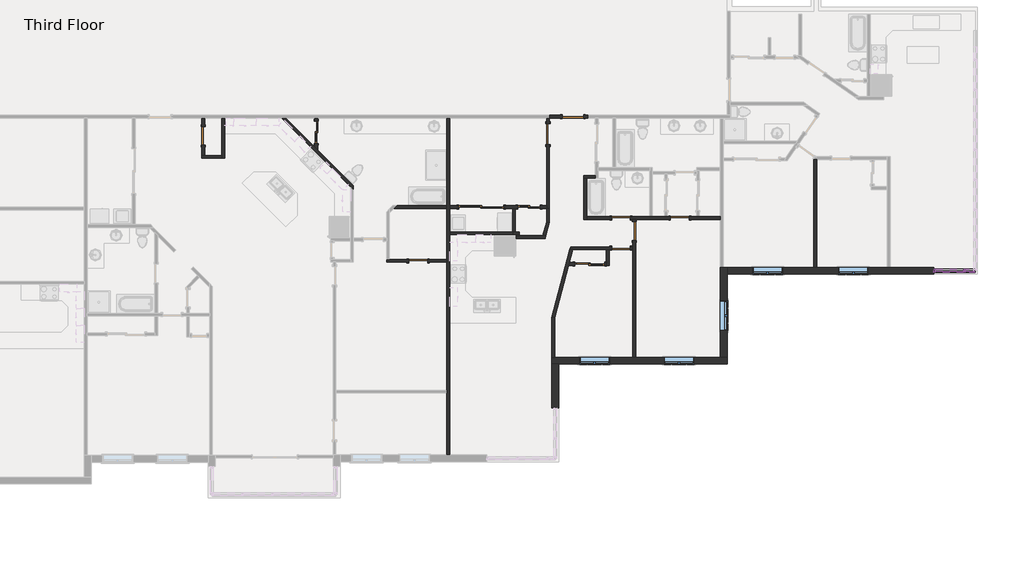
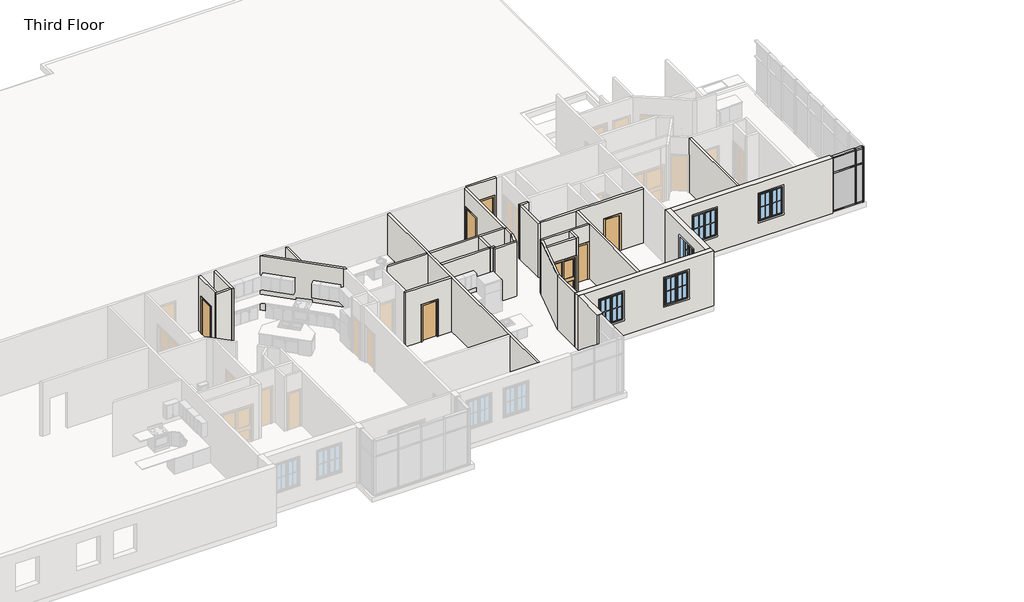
# One storey, part 5 of 17: 32 walls, 12 doors, 12 members, 5 windows, 4 plates.
"""IFC4 building model written with IfcOpenShell, lengths in millimetres."""

from ifc_helpers import new_model, si_unit, frame, origin, place, context, project, spatial, polyline, outline, extrude, faceted_brep, transform, mapped, element, save
from components import door_d8f5dbb5, door_f2b275c1, door_825b8444, door_c29894e6, door_88c23cd7, door_900f836f, door_caaf2a11, rectangular_mullion_rectangular_mullion_1_fa3625a1, rectangular_mullion_rectangular_mullion_1_7cbf0b94, rectangular_mullion_rectangular_mullion_1_6186cc23, rectangular_mullion_rectangular_mullion_1_049a2e78, rectangular_mullion_rectangular_mullion_1_a50b3cda, rectangular_mullion_rectangular_mullion_1_5cd4c5ac, rectangular_mullion_rectangular_mullion_1_64aff199, rectangular_mullion_rectangular_mullion_1_b6c962ab, system_panel_glazed_0ed27d1d, system_panel_glazed_134bacdb, system_panel_glazed_a3383988, system_panel_glazed_d9a092fd, window_33528cc2

model = new_model("IFC4")

# Units and contexts
model_context = context("Model", 3, world=origin())
ifc_project = project(units=[si_unit("LENGTHUNIT", "METRE", prefix="MILLI")], contexts=[model_context])

# Site, building, storey
site = spatial("IfcSite", under=ifc_project)
building = spatial("IfcBuilding", under=site)
storey = spatial("IfcBuildingStorey", under=building, Name="Third Floor", Elevation=6096.0)

# Doors
placement = place(None, origin())
door_shape = door_d8f5dbb5(model_context)
element("IfcDoor", 1, ObjectType="Single-Flush : 30\" x 80\"", at=placement, inside=storey, context=model_context, shape_type="MappedRepresentation", body=[
    mapped(door_shape, transform((40944.0341819, -10517.1896208, 6096.0), x_axis=(1.0, 0.0, 0.0), y_axis=(0.0, 1.0, 0.0), z_axis=(0.0, 0.0, 1.0))),
])
element("IfcDoor", 2, ObjectType="Single-Flush : 30\" x 80\"", at=placement, inside=storey, context=model_context, shape_type="MappedRepresentation", body=[
    mapped(door_shape, transform((32213.1466966, -5438.7917963, 6096.0), x_axis=(0.0, 1.0, 0.0), y_axis=(-1.0, 0.0, 0.0), z_axis=(0.0, 0.0, 1.0))),
])
door_2_shape = door_f2b275c1(model_context)
element("IfcDoor", 3, ObjectType="Single-Flush : 30\" x 80\"", at=placement, inside=storey, context=model_context, shape_type="MappedRepresentation", body=[
    mapped(door_2_shape, transform((49185.2164857, -10003.6934793, 6096.0), x_axis=(1.0, 0.0, 0.0), y_axis=(0.0, 1.0, 0.0), z_axis=(0.0, 0.0, 1.0))),
])
element("IfcDoor", 4, ObjectType="Single-Flush : 30\" x 80\"", at=placement, inside=storey, context=model_context, shape_type="MappedRepresentation", body=[
    mapped(door_2_shape, transform((49722.0869446, -9306.0763206, 6096.0), x_axis=(0.0, 1.0, 0.0), y_axis=(-1.0, 0.0, 0.0), z_axis=(0.0, 0.0, 1.0))),
])
element("IfcDoor", 5, ObjectType="Single-Flush : 30\" x 80\"", at=placement, inside=storey, context=model_context, shape_type="MappedRepresentation", body=[
    mapped(door_2_shape, transform((51578.0008306, -8772.6763206, 6096.0), x_axis=(-1.0, 0.0, 0.0), y_axis=(0.0, -1.0, 0.0), z_axis=(0.0, 0.0, 1.0))),
])
element("IfcDoor", 6, ObjectType="Single-Flush : 30\" x 80\"", at=placement, inside=storey, context=model_context, shape_type="MappedRepresentation", body=[
    mapped(door_2_shape, transform((49188.6869446, -8772.6763206, 6096.0), x_axis=(-1.0, 0.0, 0.0), y_axis=(0.0, -1.0, 0.0), z_axis=(0.0, 0.0, 1.0))),
])
door_3_shape = door_825b8444(model_context)
element("IfcDoor", 7, ObjectType="Single-Flush : 34\" x 80\"", at=placement, inside=storey, context=model_context, shape_type="MappedRepresentation", body=[
    mapped(door_3_shape, transform((47235.4550668, -4651.3917963, 6096.0), x_axis=(1.0, 0.0, 0.0), y_axis=(0.0, 1.0, 0.0), z_axis=(0.0, 0.0, 1.0))),
])
door_4_shape = door_c29894e6(model_context)
element("IfcDoor", 8, ObjectType="Single-Flush : 34\" x 80\"", at=placement, inside=storey, context=model_context, shape_type="MappedRepresentation", body=[
    mapped(door_4_shape, transform((46219.4550668, -5362.5917963, 6096.0), x_axis=(0.0, 1.0, 0.0), y_axis=(-1.0, 0.0, 0.0), z_axis=(0.0, 0.0, 1.0))),
])
door_5_shape = door_88c23cd7(model_context)
element("IfcDoor", 9, ObjectType="Sliding-Closet : 36\" x 80\"", at=placement, inside=storey, context=model_context, shape_type="MappedRepresentation", body=[
    mapped(door_5_shape, transform((45452.5275875, -8462.220689, 6096.0), x_axis=(1.0, 0.0, 0.0), y_axis=(0.0, 1.0, 0.0), z_axis=(0.0, 0.0, 1.0))),
])
element("IfcDoor", 10, ObjectType="Sliding-Closet : 36\" x 80\"", at=placement, inside=storey, context=model_context, shape_type="MappedRepresentation", body=[
    mapped(door_5_shape, transform((36679.0005062, -5286.3917963, 6096.0), x_axis=(0.0, -1.0, 0.0), y_axis=(1.0, 0.0, 0.0), z_axis=(0.0, 0.0, 1.0))),
])
door_6_shape = door_900f836f(model_context)
element("IfcDoor", 11, ObjectType="Sliding-Closet : 48\" x 80\"", at=placement, inside=storey, context=model_context, shape_type="MappedRepresentation", body=[
    mapped(door_6_shape, transform((47911.7460269, -10519.7402375, 6096.0), x_axis=(-1.0, 0.0, 0.0), y_axis=(0.0, -1.0, 0.0), z_axis=(0.0, 0.0, 1.0))),
])
door_7_shape = door_caaf2a11(model_context)
element("IfcDoor", 12, ObjectType="Sliding-Closet : 72\" x 80\"", at=placement, inside=storey, context=model_context, shape_type="MappedRepresentation", body=[
    mapped(door_7_shape, transform((43502.5485687, -8462.220689, 6096.0), x_axis=(1.0, 0.0, 0.0), y_axis=(0.0, 1.0, 0.0), z_axis=(0.0, 0.0, 1.0))),
])

# Members
rectangular_mullion_rectangular_mullion_1_shape = rectangular_mullion_rectangular_mullion_1_fa3625a1(model_context)
element("IfcMember", 13, ObjectType="Rectangular Mullion : Rectangular Mullion 1", at=placement, inside=storey, context=model_context, shape_type="MappedRepresentation", body=[
    mapped(rectangular_mullion_rectangular_mullion_1_shape, transform((63120.5712707, -10920.5254097, 9144.0), x_axis=(0.0, 0.0, 1.0), y_axis=(0.0, -1.0, 0.0), z_axis=(1.0, 0.0, 0.0))),
])
element("IfcMember", 14, ObjectType="Rectangular Mullion : Rectangular Mullion 1", at=placement, inside=storey, context=model_context, shape_type="MappedRepresentation", body=[
    mapped(rectangular_mullion_rectangular_mullion_1_shape, transform((61964.8712704, -10920.5254097, 6096.0), x_axis=(0.0, 0.0, -1.0), y_axis=(0.0, -1.0, 0.0), z_axis=(-1.0, 0.0, 0.0))),
])
rectangular_mullion_rectangular_mullion_1_2_shape = rectangular_mullion_rectangular_mullion_1_7cbf0b94(model_context)
element("IfcMember", 15, ObjectType="Rectangular Mullion : Rectangular Mullion 1", at=placement, inside=storey, context=model_context, shape_type="MappedRepresentation", body=[
    mapped(rectangular_mullion_rectangular_mullion_1_2_shape, transform((63120.5712707, -10920.5254097, 8261.35), x_axis=(0.0, 0.0, 1.0), y_axis=(0.0, -1.0, 0.0), z_axis=(1.0, 0.0, 0.0))),
])
rectangular_mullion_rectangular_mullion_1_3_shape = rectangular_mullion_rectangular_mullion_1_6186cc23(model_context)
element("IfcMember", 16, ObjectType="Rectangular Mullion : Rectangular Mullion 1", at=placement, inside=storey, context=model_context, shape_type="MappedRepresentation", body=[
    mapped(rectangular_mullion_rectangular_mullion_1_3_shape, transform((63152.3212707, -10920.5254097, 6096.0), x_axis=(1.0, 0.0, 0.0), y_axis=(0.0, -1.0, 0.0), z_axis=(0.0, 0.0, -1.0))),
])
rectangular_mullion_rectangular_mullion_1_4_shape = rectangular_mullion_rectangular_mullion_1_049a2e78(model_context)
element("IfcMember", 17, ObjectType="Rectangular Mullion : Rectangular Mullion 1", at=placement, inside=storey, context=model_context, shape_type="MappedRepresentation", body=[
    mapped(rectangular_mullion_rectangular_mullion_1_4_shape, transform((63152.3212707, -10920.5254097, 8261.35), x_axis=(1.0, 0.0, 0.0), y_axis=(0.0, -1.0, 0.0), z_axis=(0.0, 0.0, -1.0))),
])
rectangular_mullion_rectangular_mullion_1_5_shape = rectangular_mullion_rectangular_mullion_1_a50b3cda(model_context)
element("IfcMember", 18, ObjectType="Rectangular Mullion : Rectangular Mullion 1", at=placement, inside=storey, context=model_context, shape_type="MappedRepresentation", body=[
    mapped(rectangular_mullion_rectangular_mullion_1_5_shape, transform((63577.7712704, -10920.5254097, 6096.0), x_axis=(1.0, 0.0, 0.0), y_axis=(0.0, -1.0, 0.0), z_axis=(0.0, 0.0, -1.0))),
])
rectangular_mullion_rectangular_mullion_1_6_shape = rectangular_mullion_rectangular_mullion_1_5cd4c5ac(model_context)
element("IfcMember", 19, ObjectType="Rectangular Mullion : Rectangular Mullion 1", at=placement, inside=storey, context=model_context, shape_type="MappedRepresentation", body=[
    mapped(rectangular_mullion_rectangular_mullion_1_6_shape, transform((63577.7712704, -10920.5254097, 8261.35), x_axis=(1.0, 0.0, 0.0), y_axis=(0.0, -1.0, 0.0), z_axis=(0.0, 0.0, -1.0))),
])
element("IfcMember", 20, ObjectType="Rectangular Mullion : Rectangular Mullion 1", at=placement, inside=storey, context=model_context, shape_type="MappedRepresentation", body=[
    mapped(rectangular_mullion_rectangular_mullion_1_6_shape, transform((61901.3712704, -10920.5254097, 9144.0), x_axis=(-1.0, 0.0, 0.0), y_axis=(0.0, -1.0, 0.0), z_axis=(0.0, 0.0, 1.0))),
])
element("IfcMember", 21, ObjectType="Rectangular Mullion : Rectangular Mullion 1", at=placement, inside=storey, context=model_context, shape_type="MappedRepresentation", body=[
    mapped(rectangular_mullion_rectangular_mullion_1_5_shape, transform((61901.3712704, -10920.5254097, 8261.35), x_axis=(-1.0, 0.0, 0.0), y_axis=(0.0, -1.0, 0.0), z_axis=(0.0, 0.0, 1.0))),
])
rectangular_mullion_rectangular_mullion_1_7_shape = rectangular_mullion_rectangular_mullion_1_64aff199(model_context)
element("IfcMember", 22, ObjectType="Rectangular Mullion : Rectangular Mullion 1", at=placement, inside=storey, context=model_context, shape_type="MappedRepresentation", body=[
    mapped(rectangular_mullion_rectangular_mullion_1_7_shape, transform((63514.2712704, -10920.5254097, 9144.0), x_axis=(0.0, 0.0, 1.0), y_axis=(0.0, -1.0, 0.0), z_axis=(1.0, 0.0, 0.0))),
])
element("IfcMember", 23, ObjectType="Rectangular Mullion : Rectangular Mullion 1", at=placement, inside=storey, context=model_context, shape_type="MappedRepresentation", body=[
    mapped(rectangular_mullion_rectangular_mullion_1_7_shape, transform((63184.0712707, -10920.5254097, 6096.0), x_axis=(0.0, 0.0, -1.0), y_axis=(0.0, -1.0, 0.0), z_axis=(-1.0, 0.0, 0.0))),
])
rectangular_mullion_rectangular_mullion_1_8_shape = rectangular_mullion_rectangular_mullion_1_b6c962ab(model_context)
element("IfcMember", 24, ObjectType="Rectangular Mullion : Rectangular Mullion 1", at=placement, inside=storey, context=model_context, shape_type="MappedRepresentation", body=[
    mapped(rectangular_mullion_rectangular_mullion_1_8_shape, transform((63514.2712704, -10920.5254097, 8261.35), x_axis=(0.0, 0.0, 1.0), y_axis=(0.0, -1.0, 0.0), z_axis=(1.0, 0.0, 0.0))),
])

# Plates
system_panel_glazed_shape = system_panel_glazed_0ed27d1d(model_context)
element("IfcPlate", 25, ObjectType="System Panel : Glazed", at=placement, inside=storey, context=model_context, shape_type="MappedRepresentation", body=[
    mapped(system_panel_glazed_shape, transform((62542.7212705, -10920.5254097, 6159.5), x_axis=(1.0, 0.0, 0.0), y_axis=(0.0, 1.0, 0.0), z_axis=(0.0, 0.0, 1.0))),
])
system_panel_glazed_2_shape = system_panel_glazed_134bacdb(model_context)
element("IfcPlate", 26, ObjectType="System Panel : Glazed", at=placement, inside=storey, context=model_context, shape_type="MappedRepresentation", body=[
    mapped(system_panel_glazed_2_shape, transform((62542.7212705, -10920.5254097, 8293.1), x_axis=(1.0, 0.0, 0.0), y_axis=(0.0, 1.0, 0.0), z_axis=(0.0, 0.0, 1.0))),
])
system_panel_glazed_3_shape = system_panel_glazed_a3383988(model_context)
element("IfcPlate", 27, ObjectType="System Panel : Glazed", at=placement, inside=storey, context=model_context, shape_type="MappedRepresentation", body=[
    mapped(system_panel_glazed_3_shape, transform((63349.1712705, -10920.5254097, 6159.5), x_axis=(1.0, 0.0, 0.0), y_axis=(0.0, 1.0, 0.0), z_axis=(0.0, 0.0, 1.0))),
])
system_panel_glazed_4_shape = system_panel_glazed_d9a092fd(model_context)
element("IfcPlate", 28, ObjectType="System Panel : Glazed", at=placement, inside=storey, context=model_context, shape_type="MappedRepresentation", body=[
    mapped(system_panel_glazed_4_shape, transform((63349.1712705, -10920.5254097, 8293.1), x_axis=(1.0, 0.0, 0.0), y_axis=(0.0, 1.0, 0.0), z_axis=(0.0, 0.0, 1.0))),
])

# Walls
element("IfcWall", 29, ObjectType="Exterior - Brick on Wood Stud", at=placement, inside=storey, context=model_context, shape_type="Brep", body=[
    faceted_brep([(46370.0422255, -14719.4129097, 6096.0), (46652.6172255, -14719.4129097, 6096.0), (53508.2587704, -14719.4129097, 6096.0), (53508.2587704, -14719.4129097, 9144.0), (46652.6172255, -14719.4129097, 9144.0), (46370.0422255, -14719.4129097, 9144.0), (50934.9291075, -14719.4129097, 8534.4), (52154.1291075, -14719.4129097, 8534.4), (52154.1291075, -14719.4129097, 7010.4), (50934.9291075, -14719.4129097, 7010.4), (47507.1083351, -14719.4129097, 8534.4), (48726.3083351, -14719.4129097, 8534.4), (48726.3083351, -14719.4129097, 7010.4), (47507.1083351, -14719.4129097, 7010.4), (46370.0422255, -14436.8379097, 6096.0), (46370.0422255, -14436.8379097, 9144.0), (46484.3422255, -14436.8379097, 9144.0), (49664.9369446, -14436.8379097, 9144.0), (49779.2369446, -14436.8379097, 9144.0), (53225.6837704, -14436.8379097, 9144.0), (53508.2587704, -14436.8379097, 9144.0), (53508.2587704, -14436.8379097, 6096.0), (53225.6837704, -14436.8379097, 6096.0), (49779.2369446, -14436.8379097, 6096.0), (49664.9369446, -14436.8379097, 6096.0), (46484.3422255, -14436.8379097, 6096.0), (50934.9291075, -14436.8379097, 8534.4), (50934.9291075, -14436.8379097, 7010.4), (52154.1291075, -14436.8379097, 7010.4), (52154.1291075, -14436.8379097, 8534.4), (47507.1083351, -14436.8379097, 8534.4), (47507.1083351, -14436.8379097, 7010.4), (48726.3083351, -14436.8379097, 7010.4), (48726.3083351, -14436.8379097, 8534.4)], [[[0, 1, 2, 3, 4, 5], [6, 7, 8, 9], [10, 11, 12, 13]], [[14, 15, 16, 17, 18, 19, 20, 21, 22, 23, 24, 25], [26, 27, 28, 29], [30, 31, 32, 33]], [[2, 1, 0, 14, 25, 24, 23, 22, 21]], [[5, 4, 3, 20, 19, 18, 17, 16, 15]], [[27, 26, 6, 9]], [[28, 27, 9, 8]], [[29, 28, 8, 7]], [[26, 29, 7, 6]], [[31, 30, 10, 13]], [[32, 31, 13, 12]], [[33, 32, 12, 11]], [[30, 33, 11, 10]], [[0, 5, 15, 14]], [[3, 2, 21, 20]]]),
])
element("IfcWall", 30, ObjectType="Exterior - Brick on Wood Stud", at=placement, inside=storey, context=model_context, shape_type="Brep", body=[
    faceted_brep([(53508.2587704, -14436.8379097, 6096.0), (53508.2587704, -11061.8129097, 6096.0), (53508.2587704, -10779.2379097, 6096.0), (53508.2587704, -10779.2379097, 9144.0), (53508.2587704, -11061.8129097, 9144.0), (53508.2587704, -14436.8379097, 9144.0), (53508.2587704, -13358.9254097, 8534.4), (53508.2587704, -12139.7254097, 8534.4), (53508.2587704, -12139.7254097, 7010.4), (53508.2587704, -13358.9254097, 7010.4), (53225.6837704, -14436.8379097, 6096.0), (53225.6837704, -14436.8379097, 9144.0), (53225.6837704, -10779.2379097, 9144.0), (53225.6837704, -10779.2379097, 6096.0), (53225.6837704, -13358.9254097, 8534.4), (53225.6837704, -13358.9254097, 7010.4), (53225.6837704, -12139.7254097, 7010.4), (53225.6837704, -12139.7254097, 8534.4), (53339.9837704, -10779.2379097, 6096.0), (53339.9837704, -10779.2379097, 9144.0)], [[[0, 1, 2, 3, 4, 5], [6, 7, 8, 9]], [[10, 11, 12, 13], [14, 15, 16, 17]], [[2, 1, 0, 10, 13, 18]], [[5, 4, 3, 19, 12, 11]], [[15, 14, 6, 9]], [[16, 15, 9, 8]], [[17, 16, 8, 7]], [[14, 17, 7, 6]], [[3, 2, 18, 13, 12, 19]], [[0, 5, 11, 10]]]),
])
element("IfcWall", 31, ObjectType="Exterior - Brick on Wood Stud", at=placement, inside=storey, context=model_context, shape_type="Brep", body=[
    faceted_brep([(53508.2587704, -11061.8129097, 6096.0), (61901.3712704, -11061.8129097, 6096.0), (61901.3712704, -11061.8129097, 9144.0), (53508.2587704, -11061.8129097, 9144.0), (58021.3646499, -11061.8129097, 8534.4), (59240.5646499, -11061.8129097, 8534.4), (59240.5646499, -11061.8129097, 7010.4), (58021.3646499, -11061.8129097, 7010.4), (54535.3712704, -11061.8129097, 8534.4), (55754.5712704, -11061.8129097, 8534.4), (55754.5712704, -11061.8129097, 7010.4), (54535.3712704, -11061.8129097, 7010.4), (53508.2587704, -10779.2379097, 6096.0), (53508.2587704, -10779.2379097, 9144.0), (57029.5575892, -10779.2379097, 9144.0), (57143.8575892, -10779.2379097, 9144.0), (60016.4717107, -10779.2379097, 9144.0), (60130.7717107, -10779.2379097, 9144.0), (61901.3712704, -10779.2379097, 9144.0), (61901.3712704, -10779.2379097, 6096.0), (60130.7717107, -10779.2379097, 6096.0), (60016.4717107, -10779.2379097, 6096.0), (57143.8575892, -10779.2379097, 6096.0), (57029.5575892, -10779.2379097, 6096.0), (58021.3646499, -10779.2379097, 8534.4), (58021.3646499, -10779.2379097, 7010.4), (59240.5646499, -10779.2379097, 7010.4), (59240.5646499, -10779.2379097, 8534.4), (54535.3712704, -10779.2379097, 8534.4), (54535.3712704, -10779.2379097, 7010.4), (55754.5712704, -10779.2379097, 7010.4), (55754.5712704, -10779.2379097, 8534.4)], [[[0, 1, 2, 3], [4, 5, 6, 7], [8, 9, 10, 11]], [[12, 13, 14, 15, 16, 17, 18, 19, 20, 21, 22, 23], [24, 25, 26, 27], [28, 29, 30, 31]], [[1, 0, 12, 23, 22, 21, 20, 19]], [[2, 1, 19, 18]], [[3, 2, 18, 17, 16, 15, 14, 13]], [[25, 24, 4, 7]], [[26, 25, 7, 6]], [[27, 26, 6, 5]], [[24, 27, 5, 4]], [[29, 28, 8, 11]], [[30, 29, 11, 10]], [[31, 30, 10, 9]], [[28, 31, 9, 8]], [[0, 3, 13, 12]]]),
])
element("IfcWall", 32, ObjectType="Exterior - Brick on Wood Stud", at=placement, inside=storey, context=model_context, shape_type="SweptSolid", body=[
    extrude(outline(polyline([(46652.6172255, -14719.4129097), (46652.6172255, -16495.3488497), (46370.0422255, -16495.3488497), (46370.0422255, -14719.4129097), (46652.6172255, -14719.4129097)])), frame((0.0, 0.0, 6096.0), z_axis=(0.0, 0.0, 1.0), x_axis=(1.0, 0.0, 0.0)), (0.0, 0.0, 1.0), 3048.0),
])
element("IfcWall", 33, ObjectType="Interior - 4 1/2\" Partition", at=placement, inside=storey, context=model_context, shape_type="Brep", body=[
    faceted_brep([(42109.9470292, -4708.5417963, 6096.0), (42109.9470292, -8278.070689, 6096.0), (42109.9470292, -8392.370689, 6096.0), (42109.9470292, -10460.0396208, 6096.0), (42109.9470292, -10574.3396208, 6096.0), (42109.9470292, -15784.9064679, 6096.0), (42109.9470292, -15899.2064679, 6096.0), (42109.9470292, -18414.3743072, 6096.0), (42109.9470292, -18414.3743072, 9144.0), (42109.9470292, -15899.2064679, 9144.0), (42109.9470292, -15784.9064679, 9144.0), (42109.9470292, -10574.3396208, 9144.0), (42109.9470292, -10460.0396208, 9144.0), (42109.9470292, -8392.370689, 9144.0), (42109.9470292, -8278.070689, 9144.0), (42109.9470292, -4708.5417963, 9144.0), (42224.2470292, -4708.5417963, 6096.0), (42224.2470292, -4708.5417963, 9144.0), (42224.2470292, -8278.070689, 9144.0), (42224.2470292, -8392.370689, 9144.0), (42224.2470292, -9338.0876998, 9144.0), (42224.2470292, -9452.3876998, 9144.0), (42224.2470292, -18414.3743072, 9144.0), (42224.2470292, -18414.3743072, 6096.0), (42224.2470292, -9452.3876998, 6096.0), (42224.2470292, -9338.0876998, 6096.0), (42224.2470292, -8392.370689, 6096.0), (42224.2470292, -8278.070689, 6096.0)], [[[0, 1, 2, 3, 4, 5, 6, 7, 8, 9, 10, 11, 12, 13, 14, 15]], [[16, 17, 18, 19, 20, 21, 22, 23, 24, 25, 26, 27]], [[7, 6, 5, 4, 3, 2, 1, 0, 16, 27, 26, 25, 24, 23]], [[15, 14, 13, 12, 11, 10, 9, 8, 22, 21, 20, 19, 18, 17]], [[0, 15, 17, 16]], [[8, 7, 23, 22]]]),
])
element("IfcWall", 34, ObjectType="Interior - 4 1/2\" Partition", at=placement, inside=storey, context=model_context, shape_type="Brep", body=[
    faceted_brep([(38310.9505062, -7451.1325257, 6096.0), (36863.1505062, -6003.3325257, 6096.0), (36748.8505062, -5889.0325257, 6096.0), (35568.3597768, -4708.5417963, 6096.0), (35568.3597768, -4708.5417963, 9144.0), (36748.8505062, -5889.0325257, 9144.0), (36863.1505062, -6003.3325257, 9144.0), (38310.9505062, -7451.1325257, 9144.0), (38310.9505062, -7612.7771359, 6096.0), (38310.9505062, -7612.7771359, 9144.0), (38196.6505062, -7498.4771359, 9144.0), (35406.7151666, -4708.5417963, 9144.0), (35406.7151666, -4708.5417963, 6096.0), (38196.6505062, -7498.4771359, 6096.0)], [[[0, 1, 2, 3, 4, 5, 6, 7]], [[8, 9, 10, 11, 12, 13]], [[3, 2, 1, 0, 8, 13, 12]], [[7, 6, 5, 4, 11, 10, 9]], [[0, 7, 9, 8]], [[4, 3, 12, 11]]]),
])
element("IfcWall", 35, ObjectType="Interior - 4 1/2\" Partition", at=placement, inside=storey, context=model_context, shape_type="Brep", body=[
    faceted_brep([(42109.9470292, -10460.0396208, 6096.0), (41325.0341819, -10460.0396208, 6096.0), (41325.0341819, -10460.0396208, 8128.0), (40563.0341819, -10460.0396208, 8128.0), (40563.0341819, -10460.0396208, 6096.0), (39778.1213345, -10460.0396208, 6096.0), (39663.8213345, -10460.0396208, 6096.0), (39663.8213345, -10460.0396208, 9144.0), (39778.1213345, -10460.0396208, 9144.0), (42109.9470292, -10460.0396208, 9144.0), (41325.0341819, -10574.3396208, 8128.0), (41325.0341819, -10574.3396208, 6096.0), (42109.9470292, -10574.3396208, 6096.0), (42109.9470292, -10574.3396208, 9144.0), (39663.8213345, -10574.3396208, 9144.0), (39663.8213345, -10574.3396208, 6096.0), (40563.0341819, -10574.3396208, 6096.0), (40563.0341819, -10574.3396208, 8128.0)], [[[0, 1, 2, 3, 4, 5, 6, 7, 8, 9]], [[10, 11, 12, 13, 14, 15, 16, 17]], [[16, 15, 6, 5, 4]], [[12, 11, 1, 0]], [[9, 8, 7, 14, 13]], [[2, 1, 11, 10]], [[3, 2, 10, 17]], [[4, 3, 17, 16]], [[7, 6, 15, 14]], [[0, 9, 13, 12]]]),
])
element("IfcWall", 36, ObjectType="Interior - 4 1/2\" Partition", at=placement, inside=storey, context=model_context, shape_type="SweptSolid", body=[
    extrude(outline(polyline([(42109.9470292, -8392.370689), (39960.1697865, -8392.370689), (40074.4697865, -8278.070689), (42109.9470292, -8278.070689), (42109.9470292, -8392.370689)])), frame((0.0, 0.0, 6096.0), z_axis=(0.0, 0.0, 1.0), x_axis=(1.0, 0.0, 0.0)), (0.0, 0.0, 1.0), 3048.0),
])
element("IfcWall", 37, ObjectType="Interior - 4 1/2\" Partition", at=placement, inside=storey, context=model_context, shape_type="Brep", body=[
    faceted_brep([(32968.7966966, -4708.5417963, 6096.0), (32968.7966966, -6227.7127707, 6096.0), (32968.7966966, -6342.0127707, 6096.0), (32968.7966966, -6342.0127707, 9144.0), (32968.7966966, -6227.7127707, 9144.0), (32968.7966966, -4708.5417963, 9144.0), (33083.0966966, -4708.5417963, 6096.0), (33083.0966966, -4708.5417963, 9144.0), (33083.0966966, -6342.0127707, 9144.0), (33083.0966966, -6342.0127707, 6096.0)], [[[0, 1, 2, 3, 4, 5]], [[6, 7, 8, 9]], [[2, 1, 0, 6, 9]], [[5, 4, 3, 8, 7]], [[3, 2, 9, 8]], [[0, 5, 7, 6]]]),
])
element("IfcWall", 38, ObjectType="Interior - 4 1/2\" Partition", at=placement, inside=storey, context=model_context, shape_type="Brep", body=[
    faceted_brep([(32968.7966966, -6227.7127707, 6096.0), (32270.2966966, -6227.7127707, 6096.0), (32155.9966966, -6227.7127707, 6096.0), (32155.9966966, -6227.7127707, 9144.0), (32270.2966966, -6227.7127707, 9144.0), (32968.7966966, -6227.7127707, 9144.0), (32968.7966966, -6342.0127707, 6096.0), (32968.7966966, -6342.0127707, 9144.0), (32155.9966966, -6342.0127707, 9144.0), (32155.9966966, -6342.0127707, 6096.0)], [[[0, 1, 2, 3, 4, 5]], [[6, 7, 8, 9]], [[2, 1, 0, 6, 9]], [[5, 4, 3, 8, 7]], [[3, 2, 9, 8]], [[0, 5, 7, 6]]]),
])
element("IfcWall", 39, ObjectType="Interior - 4 1/2\" Partition", at=placement, inside=storey, context=model_context, shape_type="SweptSolid", body=[
    extrude(outline(polyline([(-4708.5417963, 6096.0), (-5057.7917963, 6096.0), (-5057.7917963, 8128.0), (-5819.7917963, 8128.0), (-5819.7917963, 6096.0), (-6227.7127707, 6096.0), (-6227.7127707, 9144.0), (-4708.5417963, 9144.0), (-4708.5417963, 6096.0)])), frame((32155.9966966, 0.0, 0.0), z_axis=(1.0, 0.0, 0.0), x_axis=(0.0, 1.0, 0.0)), (0.0, 0.0, 1.0), 114.3),
])
element("IfcWall", 40, ObjectType="Interior - 4 1/2\" Partition", at=placement, inside=storey, context=model_context, shape_type="Brep", body=[
    faceted_brep([(46162.3050668, -4708.5417963, 6096.0), (46162.3050668, -4930.7917963, 6096.0), (46162.3050668, -4930.7917963, 8128.0), (46162.3050668, -5794.3917963, 8128.0), (46162.3050668, -5794.3917963, 6096.0), (46162.3050668, -8278.070689, 6096.0), (46162.3050668, -8392.370689, 6096.0), (46162.3050668, -8392.370689, 9144.0), (46162.3050668, -8278.070689, 9144.0), (46162.3050668, -4708.5417963, 9144.0), (46276.6050668, -4930.7917963, 8128.0), (46276.6050668, -4930.7917963, 6096.0), (46276.6050668, -4708.5417963, 6096.0), (46276.6050668, -4708.5417963, 9144.0), (46276.6050668, -8392.370689, 9144.0), (46276.6050668, -8392.370689, 6096.0), (46276.6050668, -5794.3917963, 6096.0), (46276.6050668, -5794.3917963, 8128.0)], [[[0, 1, 2, 3, 4, 5, 6, 7, 8, 9]], [[10, 11, 12, 13, 14, 15, 16, 17]], [[16, 15, 6, 5, 4]], [[12, 11, 1, 0]], [[9, 8, 7, 14, 13]], [[2, 1, 11, 10]], [[3, 2, 10, 17]], [[4, 3, 17, 16]], [[7, 6, 15, 14]], [[0, 9, 13, 12]]]),
])
element("IfcWall", 41, ObjectType="Interior - 4 1/2\" Partition", at=placement, inside=storey, context=model_context, shape_type="SweptSolid", body=[
    extrude(outline(polyline([(8128.0, 47667.2550668), (6096.0, 47667.2550668), (6096.0, 47845.0550668), (9144.0, 47845.0550668), (9144.0, 46276.6050668), (6096.0, 46276.6050668), (6096.0, 46803.6550668), (8128.0, 46803.6550668), (8128.0, 47667.2550668)])), frame((0.0, -4708.5417963, 0.0), z_axis=(0.0, 1.0, 0.0), x_axis=(0.0, 0.0, 1.0)), (0.0, 0.0, 1.0), 114.3),
])
element("IfcWall", 42, ObjectType="Interior - 4 1/2\" Partition", at=placement, inside=storey, context=model_context, shape_type="Brep", body=[
    faceted_brep([(46162.3050668, -8278.070689, 6096.0), (45909.7275875, -8278.070689, 6096.0), (45909.7275875, -8278.070689, 8128.0), (44995.3275875, -8278.070689, 8128.0), (44995.3275875, -8278.070689, 6096.0), (44416.9485687, -8278.070689, 6096.0), (44416.9485687, -8278.070689, 8128.0), (42588.1485687, -8278.070689, 8128.0), (42588.1485687, -8278.070689, 6096.0), (42224.2470292, -8278.070689, 6096.0), (42224.2470292, -8278.070689, 9144.0), (46162.3050668, -8278.070689, 9144.0), (45909.7275875, -8392.370689, 8128.0), (45909.7275875, -8392.370689, 6096.0), (46162.3050668, -8392.370689, 6096.0), (46162.3050668, -8392.370689, 9144.0), (44895.1501082, -8392.370689, 9144.0), (44780.8501082, -8392.370689, 9144.0), (42224.2470292, -8392.370689, 9144.0), (42224.2470292, -8392.370689, 6096.0), (42588.1485687, -8392.370689, 6096.0), (42588.1485687, -8392.370689, 8128.0), (44416.9485687, -8392.370689, 8128.0), (44416.9485687, -8392.370689, 6096.0), (44780.8501082, -8392.370689, 6096.0), (44895.1501082, -8392.370689, 6096.0), (44995.3275875, -8392.370689, 6096.0), (44995.3275875, -8392.370689, 8128.0)], [[[0, 1, 2, 3, 4, 5, 6, 7, 8, 9, 10, 11]], [[12, 13, 14, 15, 16, 17, 18, 19, 20, 21, 22, 23, 24, 25, 26, 27]], [[20, 19, 9, 8]], [[14, 13, 1, 0]], [[26, 25, 24, 23, 5, 4]], [[11, 10, 18, 17, 16, 15]], [[8, 7, 21, 20]], [[6, 5, 23, 22]], [[7, 6, 22, 21]], [[4, 3, 27, 26]], [[2, 1, 13, 12]], [[3, 2, 12, 27]], [[0, 11, 15, 14]], [[10, 9, 19, 18]]]),
])
element("IfcWall", 43, ObjectType="Interior - 4 1/2\" Partition", at=placement, inside=storey, context=model_context, shape_type="SweptSolid", body=[
    extrude(outline(polyline([(46162.3050668, -8935.5417122), (46162.3050668, -8392.370689), (46276.6050668, -8392.370689), (46276.6050668, -8950.5895927), (46162.3050668, -8935.5417122)])), frame((0.0, 0.0, 6096.0), z_axis=(0.0, 0.0, 1.0), x_axis=(1.0, 0.0, 0.0)), (0.0, 0.0, 1.0), 3048.0),
])
element("IfcWall", 44, ObjectType="Interior - 4 1/2\" Partition", at=placement, inside=storey, context=model_context, shape_type="Brep", body=[
    faceted_brep([(46131.0628298, -9493.760616, 6096.0), (46012.7307624, -9493.760616, 6096.0), (45047.5501082, -9493.760616, 6096.0), (44933.2501082, -9493.760616, 6096.0), (44933.2501082, -9493.760616, 9144.0), (45047.5501082, -9493.760616, 9144.0), (46012.7307624, -9493.760616, 9144.0), (46131.0628298, -9493.760616, 9144.0), (46100.4362371, -9608.060616, 6096.0), (46100.4362371, -9608.060616, 9144.0), (44933.2501082, -9608.060616, 9144.0), (44933.2501082, -9608.060616, 6096.0)], [[[0, 1, 2, 3, 4, 5, 6, 7]], [[8, 9, 10, 11]], [[3, 2, 1, 0, 8, 11]], [[7, 6, 5, 4, 10, 9]], [[0, 7, 9, 8]], [[4, 3, 11, 10]]]),
])
element("IfcWall", 45, ObjectType="Interior - 4 1/2\" Partition", at=placement, inside=storey, context=model_context, shape_type="SweptSolid", body=[
    extrude(outline(polyline([(45047.5501082, -9452.3876998), (45047.5501082, -9493.760616), (44933.2501082, -9493.760616), (44933.2501082, -9452.3876998), (45047.5501082, -9452.3876998)])), frame((0.0, 0.0, 6096.0), z_axis=(0.0, 0.0, 1.0), x_axis=(1.0, 0.0, 0.0)), (0.0, 0.0, 1.0), 3048.0),
])
element("IfcWall", 46, ObjectType="Interior - 4 1/2\" Partition", at=placement, inside=storey, context=model_context, shape_type="Brep", body=[
    faceted_brep([(45047.5501082, -9338.0876998, 6096.0), (44895.1501082, -9338.0876998, 6096.0), (44780.8501082, -9338.0876998, 6096.0), (44780.8501082, -9338.0876998, 9144.0), (44895.1501082, -9338.0876998, 9144.0), (45047.5501082, -9338.0876998, 9144.0), (45047.5501082, -9452.3876998, 6096.0), (45047.5501082, -9452.3876998, 9144.0), (44933.2501082, -9452.3876998, 9144.0), (44780.8501082, -9452.3876998, 9144.0), (44780.8501082, -9452.3876998, 6096.0), (44933.2501082, -9452.3876998, 6096.0)], [[[0, 1, 2, 3, 4, 5]], [[6, 7, 8, 9, 10, 11]], [[2, 1, 0, 6, 11, 10]], [[5, 4, 3, 9, 8, 7]], [[3, 2, 10, 9]], [[0, 5, 7, 6]]]),
])
element("IfcWall", 47, ObjectType="Interior - 4 1/2\" Partition", at=placement, inside=storey, context=model_context, shape_type="SweptSolid", body=[
    extrude(outline(polyline([(44895.1501082, -8392.370689), (44895.1501082, -9338.0876998), (44780.8501082, -9338.0876998), (44780.8501082, -8392.370689), (44895.1501082, -8392.370689)])), frame((0.0, 0.0, 6096.0), z_axis=(0.0, 0.0, 1.0), x_axis=(1.0, 0.0, 0.0)), (0.0, 0.0, 1.0), 3048.0),
])
element("IfcWall", 48, ObjectType="Interior - 4 1/2\" Partition", at=placement, inside=storey, context=model_context, shape_type="Brep", body=[
    faceted_brep([(48143.5050668, -7042.3192831, 6096.0), (47676.7960269, -7042.3192831, 6096.0), (47676.7960269, -7042.3192831, 9144.0), (48143.5050668, -7042.3192831, 9144.0), (48143.5050668, -7156.6192831, 6096.0), (48143.5050668, -7156.6192831, 9144.0), (47791.0960269, -7156.6192831, 9144.0), (47676.7960269, -7156.6192831, 9144.0), (47676.7960269, -7156.6192831, 6096.0), (47791.0960269, -7156.6192831, 6096.0)], [[[0, 1, 2, 3]], [[4, 5, 6, 7, 8, 9]], [[1, 0, 4, 9, 8]], [[3, 2, 7, 6, 5]], [[2, 1, 8, 7]], [[0, 3, 5, 4]]]),
])
element("IfcWall", 49, ObjectType="Interior - 4 1/2\" Partition", at=placement, inside=storey, context=model_context, shape_type="Brep", body=[
    faceted_brep([(47676.7960269, -7156.6192831, 6096.0), (47676.7960269, -8829.8263206, 6096.0), (47676.7960269, -8829.8263206, 9144.0), (47676.7960269, -7156.6192831, 9144.0), (47791.0960269, -7156.6192831, 6096.0), (47791.0960269, -7156.6192831, 9144.0), (47791.0960269, -8715.5263206, 9144.0), (47791.0960269, -8829.8263206, 9144.0), (47791.0960269, -8829.8263206, 6096.0), (47791.0960269, -8715.5263206, 6096.0)], [[[0, 1, 2, 3]], [[4, 5, 6, 7, 8, 9]], [[1, 0, 4, 9, 8]], [[3, 2, 7, 6, 5]], [[2, 1, 8, 7]], [[0, 3, 5, 4]]]),
])
element("IfcWall", 50, ObjectType="Interior - 4 1/2\" Partition", at=placement, inside=storey, context=model_context, shape_type="Brep", body=[
    faceted_brep([(47791.0960269, -8829.8263206, 6096.0), (48807.6869446, -8829.8263206, 6096.0), (48807.6869446, -8829.8263206, 8128.0), (49569.6869446, -8829.8263206, 8128.0), (49569.6869446, -8829.8263206, 6096.0), (49664.9369446, -8829.8263206, 6096.0), (49779.2369446, -8829.8263206, 6096.0), (51197.0008306, -8829.8263206, 6096.0), (51197.0008306, -8829.8263206, 8128.0), (51959.0008306, -8829.8263206, 8128.0), (51959.0008306, -8829.8263206, 6096.0), (53225.6837704, -8829.8263206, 6096.0), (53225.6837704, -8829.8263206, 9144.0), (49779.2369446, -8829.8263206, 9144.0), (49664.9369446, -8829.8263206, 9144.0), (47791.0960269, -8829.8263206, 9144.0), (48807.6869446, -8715.5263206, 8128.0), (48807.6869446, -8715.5263206, 6096.0), (47791.0960269, -8715.5263206, 6096.0), (47791.0960269, -8715.5263206, 9144.0), (50352.4508306, -8715.5263206, 9144.0), (50466.7508306, -8715.5263206, 9144.0), (50962.0508306, -8715.5263206, 9144.0), (51076.3508306, -8715.5263206, 9144.0), (52256.4979881, -8715.5263206, 9144.0), (52370.7979881, -8715.5263206, 9144.0), (53225.6837704, -8715.5263206, 9144.0), (53225.6837704, -8715.5263206, 6096.0), (52370.7979881, -8715.5263206, 6096.0), (52256.4979881, -8715.5263206, 6096.0), (51959.0008306, -8715.5263206, 6096.0), (51959.0008306, -8715.5263206, 8128.0), (51197.0008306, -8715.5263206, 8128.0), (51197.0008306, -8715.5263206, 6096.0), (51076.3508306, -8715.5263206, 6096.0), (50962.0508306, -8715.5263206, 6096.0), (50466.7508306, -8715.5263206, 6096.0), (50352.4508306, -8715.5263206, 6096.0), (49569.6869446, -8715.5263206, 6096.0), (49569.6869446, -8715.5263206, 8128.0)], [[[0, 1, 2, 3, 4, 5, 6, 7, 8, 9, 10, 11, 12, 13, 14, 15]], [[16, 17, 18, 19, 20, 21, 22, 23, 24, 25, 26, 27, 28, 29, 30, 31, 32, 33, 34, 35, 36, 37, 38, 39]], [[30, 29, 28, 27, 11, 10]], [[18, 17, 1, 0]], [[38, 37, 36, 35, 34, 33, 7, 6, 5, 4]], [[15, 14, 13, 12, 26, 25, 24, 23, 22, 21, 20, 19]], [[8, 7, 33, 32]], [[9, 8, 32, 31]], [[10, 9, 31, 30]], [[2, 1, 17, 16]], [[3, 2, 16, 39]], [[4, 3, 39, 38]], [[0, 15, 19, 18]], [[12, 11, 27, 26]]]),
])
element("IfcWall", 51, ObjectType="Interior - 4 1/2\" Partition", at=placement, inside=storey, context=model_context, shape_type="Brep", body=[
    faceted_brep([(49779.2369446, -8925.0763206, 8128.0), (49779.2369446, -8925.0763206, 6096.0), (49779.2369446, -8829.8263206, 6096.0), (49779.2369446, -8829.8263206, 9144.0), (49779.2369446, -14436.8379097, 9144.0), (49779.2369446, -14436.8379097, 6096.0), (49779.2369446, -9687.0763206, 6096.0), (49779.2369446, -9687.0763206, 8128.0), (49664.9369446, -8829.8263206, 6096.0), (49664.9369446, -8925.0763206, 6096.0), (49664.9369446, -8925.0763206, 8128.0), (49664.9369446, -9687.0763206, 8128.0), (49664.9369446, -9687.0763206, 6096.0), (49664.9369446, -9946.5434793, 6096.0), (49664.9369446, -10060.8434793, 6096.0), (49664.9369446, -14436.8379097, 6096.0), (49664.9369446, -14436.8379097, 9144.0), (49664.9369446, -10060.8434793, 9144.0), (49664.9369446, -9946.5434793, 9144.0), (49664.9369446, -8829.8263206, 9144.0)], [[[0, 1, 2, 3, 4, 5, 6, 7]], [[8, 9, 10, 11, 12, 13, 14, 15, 16, 17, 18, 19]], [[6, 5, 15, 14, 13, 12]], [[2, 1, 9, 8]], [[4, 3, 19, 18, 17, 16]], [[10, 9, 1, 0]], [[11, 10, 0, 7]], [[12, 11, 7, 6]], [[3, 2, 8, 19]], [[5, 4, 16, 15]]]),
])
element("IfcWall", 52, ObjectType="Interior - 4 1/2\" Partition", at=placement, inside=storey, context=model_context, shape_type="Brep", body=[
    faceted_brep([(49664.9369446, -9946.5434793, 6096.0), (49566.2164857, -9946.5434793, 6096.0), (49566.2164857, -9946.5434793, 8128.0), (48804.2164857, -9946.5434793, 8128.0), (48804.2164857, -9946.5434793, 6096.0), (47138.2342072, -9946.5434793, 6096.0), (47138.2342072, -9946.5434793, 9144.0), (49664.9369446, -9946.5434793, 9144.0), (49566.2164857, -10060.8434793, 8128.0), (49566.2164857, -10060.8434793, 6096.0), (49664.9369446, -10060.8434793, 6096.0), (49664.9369446, -10060.8434793, 9144.0), (48705.4960269, -10060.8434793, 9144.0), (48591.1960269, -10060.8434793, 9144.0), (47225.9396819, -10060.8434793, 9144.0), (47107.6076145, -10060.8434793, 9144.0), (47107.6076145, -10060.8434793, 6096.0), (47225.9396819, -10060.8434793, 6096.0), (48591.1960269, -10060.8434793, 6096.0), (48705.4960269, -10060.8434793, 6096.0), (48804.2164857, -10060.8434793, 6096.0), (48804.2164857, -10060.8434793, 8128.0)], [[[0, 1, 2, 3, 4, 5, 6, 7]], [[8, 9, 10, 11, 12, 13, 14, 15, 16, 17, 18, 19, 20, 21]], [[10, 9, 1, 0]], [[20, 19, 18, 17, 16, 5, 4]], [[7, 6, 15, 14, 13, 12, 11]], [[2, 1, 9, 8]], [[3, 2, 8, 21]], [[4, 3, 21, 20]], [[6, 5, 16, 15]], [[0, 7, 11, 10]]]),
])
element("IfcWall", 53, ObjectType="Interior - 4 1/2\" Partition", at=placement, inside=storey, context=model_context, shape_type="Brep", body=[
    faceted_brep([(46484.3422255, -12828.5228654, 6096.0), (47053.6358224, -10703.8902375, 6096.0), (47084.2624151, -10589.5902375, 6096.0), (47225.9396819, -10060.8434793, 6096.0), (47225.9396819, -10060.8434793, 9144.0), (47084.2624151, -10589.5902375, 9144.0), (47053.6358224, -10703.8902375, 9144.0), (46484.3422255, -12828.5228654, 9144.0), (46370.0422255, -12813.4749849, 6096.0), (46370.0422255, -12813.4749849, 9144.0), (47107.6076145, -10060.8434793, 9144.0), (47107.6076145, -10060.8434793, 6096.0)], [[[0, 1, 2, 3, 4, 5, 6, 7]], [[8, 9, 10, 11]], [[3, 2, 1, 0, 8, 11]], [[7, 6, 5, 4, 10, 9]], [[0, 7, 9, 8]], [[4, 3, 11, 10]]]),
])
element("IfcWall", 54, ObjectType="Interior - 4 1/2\" Partition", at=placement, inside=storey, context=model_context, shape_type="Brep", body=[
    faceted_brep([(48591.1960269, -10060.8434793, 6096.0), (48591.1960269, -10589.5902375, 6096.0), (48591.1960269, -10703.8902375, 6096.0), (48591.1960269, -10703.8902375, 9144.0), (48591.1960269, -10589.5902375, 9144.0), (48591.1960269, -10060.8434793, 9144.0), (48705.4960269, -10060.8434793, 6096.0), (48705.4960269, -10060.8434793, 9144.0), (48705.4960269, -10703.8902375, 9144.0), (48705.4960269, -10703.8902375, 6096.0)], [[[0, 1, 2, 3, 4, 5]], [[6, 7, 8, 9]], [[2, 1, 0, 6, 9]], [[5, 4, 3, 8, 7]], [[3, 2, 9, 8]], [[0, 5, 7, 6]]]),
])
element("IfcWall", 55, ObjectType="Interior - 4 1/2\" Partition", at=placement, inside=storey, context=model_context, shape_type="Brep", body=[
    faceted_brep([(47302.1460269, -10589.5902375, 8128.0), (47302.1460269, -10589.5902375, 6096.0), (47084.2624151, -10589.5902375, 6096.0), (47084.2624151, -10589.5902375, 9144.0), (48591.1960269, -10589.5902375, 9144.0), (48591.1960269, -10589.5902375, 6096.0), (48521.3460269, -10589.5902375, 6096.0), (48521.3460269, -10589.5902375, 8128.0), (47053.6358224, -10703.8902375, 6096.0), (47302.1460269, -10703.8902375, 6096.0), (47302.1460269, -10703.8902375, 8128.0), (48521.3460269, -10703.8902375, 8128.0), (48521.3460269, -10703.8902375, 6096.0), (48591.1960269, -10703.8902375, 6096.0), (48591.1960269, -10703.8902375, 9144.0), (47053.6358224, -10703.8902375, 9144.0)], [[[0, 1, 2, 3, 4, 5, 6, 7]], [[8, 9, 10, 11, 12, 13, 14, 15]], [[6, 5, 13, 12]], [[2, 1, 9, 8]], [[4, 3, 15, 14]], [[12, 11, 7, 6]], [[10, 9, 1, 0]], [[11, 10, 0, 7]], [[5, 4, 14, 13]], [[3, 2, 8, 15]]]),
])
element("IfcWall", 56, ObjectType="Interior - 4 1/2\" Partition", at=placement, inside=storey, context=model_context, shape_type="SweptSolid", body=[
    extrude(outline(polyline([(57029.5575892, -10779.2379097), (57029.5575892, -6397.5056742), (57143.8575892, -6397.5056742), (57143.8575892, -10779.2379097), (57029.5575892, -10779.2379097)])), frame((0.0, 0.0, 6096.0), z_axis=(0.0, 0.0, 1.0), x_axis=(1.0, 0.0, 0.0)), (0.0, 0.0, 1.0), 3048.0),
])
element("IfcWall", 57, ObjectType="Interior - 4 1/2\" Partition", at=placement, inside=storey, context=model_context, shape_type="SweptSolid", body=[
    extrude(outline(polyline([(42224.2470292, -9338.0876998), (44780.8501082, -9338.0876998), (44780.8501082, -9452.3876998), (42224.2470292, -9452.3876998), (42224.2470292, -9338.0876998)])), frame((0.0, 0.0, 6096.0), z_axis=(0.0, 0.0, 1.0), x_axis=(1.0, 0.0, 0.0)), (0.0, 0.0, 1.0), 3048.0),
])
element("IfcWall", 58, ObjectType="Interior - 4 1/2\" Partition", at=placement, inside=storey, context=model_context, shape_type="SweptSolid", body=[
    extrude(outline(polyline([(46012.7307624, -9493.760616), (46162.3050668, -8935.5417122), (46276.6050668, -8950.5895927), (46131.0628298, -9493.760616), (46012.7307624, -9493.760616)])), frame((0.0, 0.0, 6096.0), z_axis=(0.0, 0.0, 1.0), x_axis=(1.0, 0.0, 0.0)), (0.0, 0.0, 1.0), 3048.0),
])
element("IfcWall", 59, ObjectType="Interior - 4 1/2\" Partition", at=placement, inside=storey, context=model_context, shape_type="SweptSolid", body=[
    extrude(outline(polyline([(46484.3422255, -12828.5228654), (46484.3422255, -14436.8379097), (46370.0422255, -14436.8379097), (46370.0422255, -12813.4749849), (46484.3422255, -12828.5228654)])), frame((0.0, 0.0, 6096.0), z_axis=(0.0, 0.0, 1.0), x_axis=(1.0, 0.0, 0.0)), (0.0, 0.0, 1.0), 3048.0),
])
element("IfcWall", 60, ObjectType="Interior - 4 1/2\" Partition", at=placement, inside=storey, context=model_context, shape_type="Brep", body=[
    faceted_brep([(36748.8505062, -5743.5917963, 8128.0), (36748.8505062, -5743.5917963, 6096.0), (36748.8505062, -5889.0325257, 6096.0), (36748.8505062, -5889.0325257, 9144.0), (36748.8505062, -4708.5417963, 9144.0), (36748.8505062, -4708.5417963, 6096.0), (36748.8505062, -4829.1917963, 6096.0), (36748.8505062, -4829.1917963, 8128.0), (36863.1505062, -6003.3325257, 6096.0), (36863.1505062, -5743.5917963, 6096.0), (36863.1505062, -5743.5917963, 8128.0), (36863.1505062, -4829.1917963, 8128.0), (36863.1505062, -4829.1917963, 6096.0), (36863.1505062, -4708.5417963, 6096.0), (36863.1505062, -4708.5417963, 9144.0), (36863.1505062, -6003.3325257, 9144.0)], [[[0, 1, 2, 3, 4, 5, 6, 7]], [[8, 9, 10, 11, 12, 13, 14, 15]], [[6, 5, 13, 12]], [[2, 1, 9, 8]], [[4, 3, 15, 14]], [[12, 11, 7, 6]], [[10, 9, 1, 0]], [[11, 10, 0, 7]], [[3, 2, 8, 15]], [[5, 4, 14, 13]]]),
])

# Windows
window_shape = window_33528cc2(model_context)
element("IfcWindow", 61, ObjectType="Window-Casement-Double : 48\" x 60\"", at=placement, inside=storey, context=model_context, shape_type="MappedRepresentation", body=[
    mapped(window_shape, transform((53366.9712704, -12749.3254097, 6096.0), x_axis=(0.0, -1.0, 0.0), y_axis=(1.0, 0.0, 0.0), z_axis=(0.0, 0.0, 1.0))),
])
element("IfcWindow", 62, ObjectType="Window-Casement-Double : 48\" x 60\"", at=placement, inside=storey, context=model_context, shape_type="MappedRepresentation", body=[
    mapped(window_shape, transform((51544.5291075, -14578.1254097, 6096.0), x_axis=(-1.0, 0.0, 0.0), y_axis=(0.0, -1.0, 0.0), z_axis=(0.0, 0.0, 1.0))),
])
element("IfcWindow", 63, ObjectType="Window-Casement-Double : 48\" x 60\"", at=placement, inside=storey, context=model_context, shape_type="MappedRepresentation", body=[
    mapped(window_shape, transform((48116.7083351, -14578.1254097, 6096.0), x_axis=(-1.0, 0.0, 0.0), y_axis=(0.0, -1.0, 0.0), z_axis=(0.0, 0.0, 1.0))),
])
element("IfcWindow", 64, ObjectType="Window-Casement-Double : 48\" x 60\"", at=placement, inside=storey, context=model_context, shape_type="MappedRepresentation", body=[
    mapped(window_shape, transform((58630.9646499, -10920.5254097, 6096.0), x_axis=(-1.0, 0.0, 0.0), y_axis=(0.0, -1.0, 0.0), z_axis=(0.0, 0.0, 1.0))),
])
element("IfcWindow", 65, ObjectType="Window-Casement-Double : 48\" x 60\"", at=placement, inside=storey, context=model_context, shape_type="MappedRepresentation", body=[
    mapped(window_shape, transform((55144.9712704, -10920.5254097, 6096.0), x_axis=(-1.0, 0.0, 0.0), y_axis=(0.0, -1.0, 0.0), z_axis=(0.0, 0.0, 1.0))),
])

save(model, "model.ifc")
